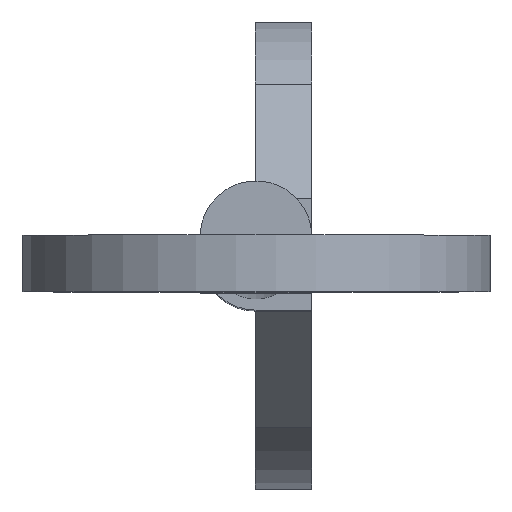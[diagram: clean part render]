
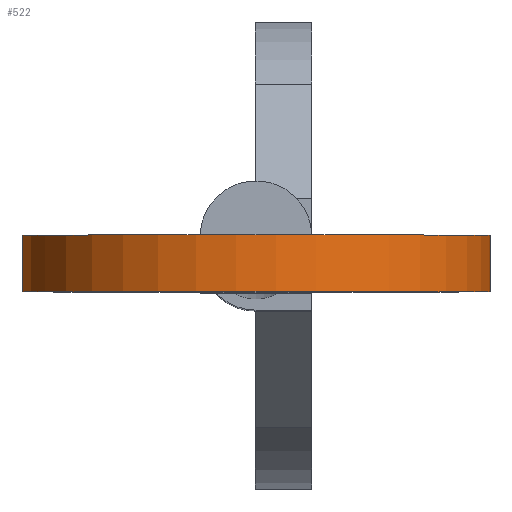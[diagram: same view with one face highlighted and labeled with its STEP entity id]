
A CAD part, top view. The second image highlights one B-rep face of the part: STEP entity #522.
In plain terms, the highlighted cylindrical face has radius 4.19 mm (diameter 8.38 mm), a partial arc.
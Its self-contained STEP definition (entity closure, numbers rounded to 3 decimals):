
#4 = CIRCLE ( 'NONE', #304, 4.19 ) ;
#5 = CARTESIAN_POINT ( 'NONE',  ( -3.066, -0.995, 98.745 ) ) ;
#22 = EDGE_CURVE ( 'NONE', #474, #508, #253, .T. ) ;
#30 = CARTESIAN_POINT ( 'NONE',  ( 3.066, 0.015, 98.745 ) ) ;
#36 = VERTEX_POINT ( 'NONE', #5 ) ;
#95 = CARTESIAN_POINT ( 'NONE',  ( 3.066, -0.995, 98.745 ) ) ;
#97 = CARTESIAN_POINT ( 'NONE',  ( 0., 0.015, 101.6 ) ) ;
#140 = AXIS2_PLACEMENT_3D ( 'NONE', #97, #249, #509 ) ;
#167 = FACE_OUTER_BOUND ( 'NONE', #626, .T. ) ;
#206 = DIRECTION ( 'NONE',  ( 0., 0., -1. ) ) ;
#249 = DIRECTION ( 'NONE',  ( 0., -1., 0. ) ) ;
#253 = LINE ( 'NONE', #262, #458 ) ;
#261 = ORIENTED_EDGE ( 'NONE', *, *, #735, .T. ) ;
#262 = CARTESIAN_POINT ( 'NONE',  ( 3.066, 0.015, 98.745 ) ) ;
#267 = AXIS2_PLACEMENT_3D ( 'NONE', #424, #691, #649 ) ;
#270 = CARTESIAN_POINT ( 'NONE',  ( -3.066, 0.015, 98.745 ) ) ;
#300 = CYLINDRICAL_SURFACE ( 'NONE', #267, 4.19 ) ;
#301 = CIRCLE ( 'NONE', #140, 4.19 ) ;
#304 = AXIS2_PLACEMENT_3D ( 'NONE', #752, #608, #206 ) ;
#315 = ORIENTED_EDGE ( 'NONE', *, *, #22, .F. ) ;
#349 = ORIENTED_EDGE ( 'NONE', *, *, #657, .T. ) ;
#364 = EDGE_CURVE ( 'NONE', #508, #36, #4, .T. ) ;
#424 = CARTESIAN_POINT ( 'NONE',  ( 0., 0.015, 101.6 ) ) ;
#458 = VECTOR ( 'NONE', #784, 1000. ) ;
#471 = VECTOR ( 'NONE', #768, 1000. ) ;
#474 = VERTEX_POINT ( 'NONE', #30 ) ;
#508 = VERTEX_POINT ( 'NONE', #95 ) ;
#509 = DIRECTION ( 'NONE',  ( 0., 0., -1. ) ) ;
#522 = ADVANCED_FACE ( 'NONE', ( #167 ), #300, .T. ) ;
#557 = CARTESIAN_POINT ( 'NONE',  ( -3.066, 0.015, 98.745 ) ) ;
#586 = VERTEX_POINT ( 'NONE', #270 ) ;
#608 = DIRECTION ( 'NONE',  ( 0., -1., 0. ) ) ;
#626 = EDGE_LOOP ( 'NONE', ( #844, #315, #349, #261 ) ) ;
#649 = DIRECTION ( 'NONE',  ( 0., 0., -1. ) ) ;
#657 = EDGE_CURVE ( 'NONE', #474, #586, #301, .T. ) ;
#690 = LINE ( 'NONE', #557, #471 ) ;
#691 = DIRECTION ( 'NONE',  ( 0., -1., 0. ) ) ;
#735 = EDGE_CURVE ( 'NONE', #586, #36, #690, .T. ) ;
#752 = CARTESIAN_POINT ( 'NONE',  ( 0., -0.995, 101.6 ) ) ;
#768 = DIRECTION ( 'NONE',  ( 0., -1., 0. ) ) ;
#784 = DIRECTION ( 'NONE',  ( 0., -1., 0. ) ) ;
#844 = ORIENTED_EDGE ( 'NONE', *, *, #364, .F. ) ;
